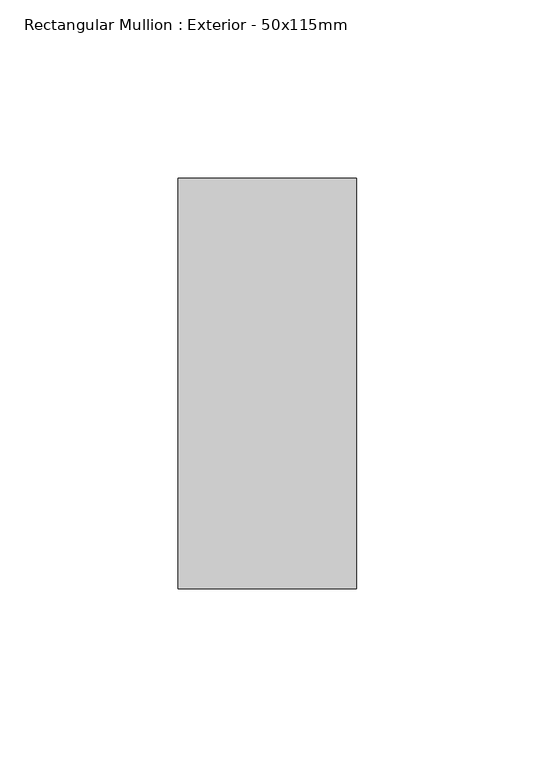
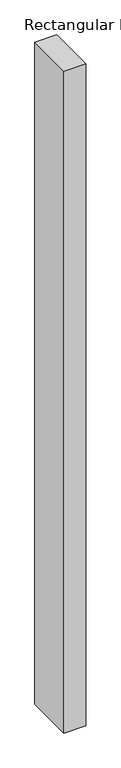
"""IFC4 building model written with IfcOpenShell, lengths in millimetres: member geometry, Rectangular Mullion : Exterior - 50x115mm."""

from ifc_helpers import new_model, si_unit, frame, origin, place, context, project, spatial, polyline, outline, extrude, source, transform, mapped, element, save


def rectangular_mullion_exterior_50x115mm_3f1db0ee(model_context):
    return source(origin(), model_context, "Body", "SweptSolid", [
        extrude(outline(polyline([(0.0, 115.0), (0.0, 0.0), (-50.0, 0.0), (-50.0, 115.0), (0.0, 115.0)])), frame((0.0, 0.0, -1600.0), z_axis=(0.0, 0.0, 1.0), x_axis=(1.0, 0.0, 0.0)), (0.0, 0.0, 1.0), 1600.0),
    ])


if __name__ == "__main__":
    model = new_model("IFC4")
    model_context = context("Model", 3, world=origin())
    ifc_project = project(units=[si_unit("LENGTHUNIT", "METRE", prefix="MILLI")], contexts=[model_context])
    site = spatial("IfcSite", under=ifc_project)
    building = spatial("IfcBuilding", under=site)
    placement = place(None, origin())
    rectangular_mullion_exterior_50x115mm_shape = rectangular_mullion_exterior_50x115mm_3f1db0ee(model_context)
    element("IfcMember", 1, ObjectType="Rectangular Mullion : Exterior - 50x115mm", at=placement, inside=building, context=model_context, shape_type="MappedRepresentation", body=[
        mapped(rectangular_mullion_exterior_50x115mm_shape, transform((0.0, 0.0, 0.0), x_axis=(1.0, 0.0, 0.0), y_axis=(0.0, 1.0, 0.0), z_axis=(0.0, 0.0, 1.0))),
    ])
    save(model, "model.ifc")
